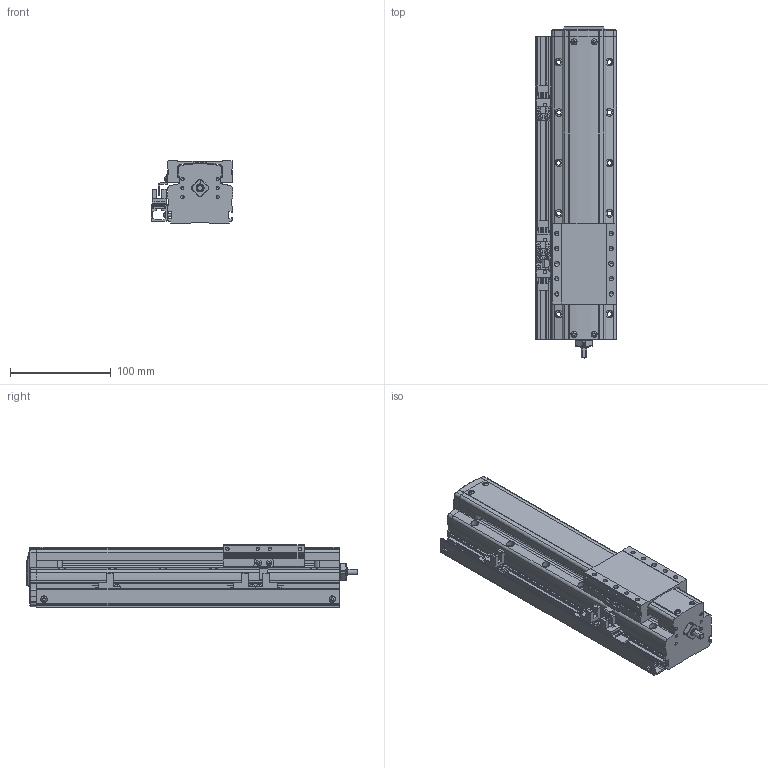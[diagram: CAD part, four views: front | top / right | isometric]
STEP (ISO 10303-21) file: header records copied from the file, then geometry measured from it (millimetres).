
FILE_DESCRIPTION(('STEP AP214'),'1');
FILE_NAME('Z:/Web/3D/PSA65/STP/PSA65-150 (3D)/PSA65ㅁㅁ-150+3SL.stp','2014-06-25T03:07:36',(' '),(' '),'Spatial InterOp 3D',' ',' ');
FILE_SCHEMA(('automotive_design'));
Length unit declared in the file: millimetre
Products named in the file (62): SLIDE; RRCV-PA060; 1; 2; 3; 4; 5; 6; 7; 8; 9; 10; 11; 12; 13; 14; 15; 16; 17; 18; 19; 20; 21; 22; 23; 24; 25; 26; 27; 28; 29; 30; 31; 스크루 : Round - M3.0 x 8.0; RN8 x 0.75; SHAFT-SAN65; BASE; 스크루 : Round - M3.0 x 6.0; EE-SX674; SBK-SX674-352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
Bounding box: 81 x 329.3 x 62 mm (x, y, z)
Volume: 1022340.8 mm3; surface area: 190577.2 mm2
Topology: 62 solids, 62 shells, 2083 faces, 5517 edges, 3559 vertices
Faces by surface type: plane 1336, cylinder 509, cone 165, sphere 42, torus 16, bspline 15
Entity records: 82605 total; most frequent: CARTESIAN_POINT 12624, DIRECTION 10990, ORIENTED_EDGE 10842, EDGE_CURVE 5421, LINE 3940, VECTOR 3940, VERTEX_POINT 3559, AXIS2_PLACEMENT_3D 3525
